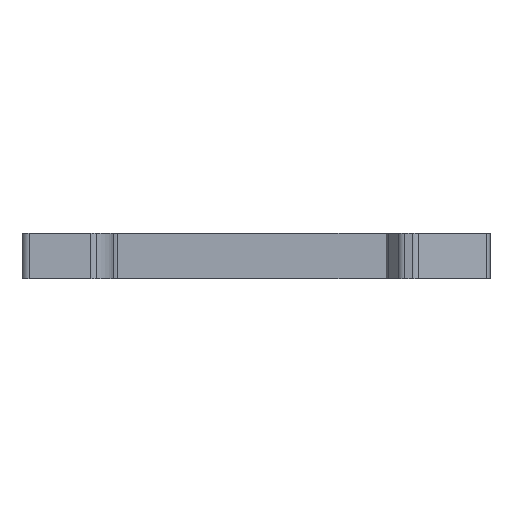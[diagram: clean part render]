
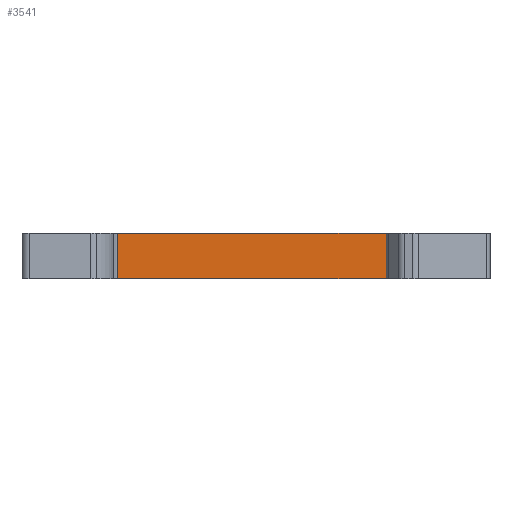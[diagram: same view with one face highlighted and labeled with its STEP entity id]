
A CAD part, front view. The second image highlights one B-rep face of the part: STEP entity #3541.
In plain terms, the highlighted planar face has unit normal (0, -1, 0).
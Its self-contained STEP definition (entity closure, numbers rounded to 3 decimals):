
#589 = DIRECTION ( 'NONE',  ( 0., 0., 1. ) ) ;
#1333 = CARTESIAN_POINT ( 'NONE',  ( -15.86, -33.5, -5.2 ) ) ;
#1361 = VERTEX_POINT ( 'NONE', #1333 ) ;
#1400 = VECTOR ( 'NONE', #5678, 1000. ) ;
#1977 = LINE ( 'NONE', #4140, #1400 ) ;
#2000 = EDGE_CURVE ( 'NONE', #5018, #6331, #1977, .T. ) ;
#2091 = CARTESIAN_POINT ( 'NONE',  ( 17.44, -33.5, 0. ) ) ;
#2437 = PLANE ( 'NONE',  #6048 ) ;
#2493 = CARTESIAN_POINT ( 'NONE',  ( 0., -33.5, -5.2 ) ) ;
#2689 = EDGE_LOOP ( 'NONE', ( #4362, #8325, #5142, #7004 ) ) ;
#3058 = EDGE_CURVE ( 'NONE', #1361, #6942, #9017, .T. ) ;
#3059 = DIRECTION ( 'NONE',  ( 0., 0., -1. ) ) ;
#3116 = EDGE_CURVE ( 'NONE', #6942, #6331, #7931, .T. ) ;
#3541 = ADVANCED_FACE ( 'NONE', ( #8257 ), #2437, .T. ) ;
#3657 = CARTESIAN_POINT ( 'NONE',  ( 17.44, -33.5, -5.2 ) ) ;
#4140 = CARTESIAN_POINT ( 'NONE',  ( 0., -33.5, 0. ) ) ;
#4308 = CARTESIAN_POINT ( 'NONE',  ( 17.44, -33.5, -5.2 ) ) ;
#4362 = ORIENTED_EDGE ( 'NONE', *, *, #3058, .T. ) ;
#4846 = CARTESIAN_POINT ( 'NONE',  ( -15.86, -33.5, 0. ) ) ;
#5018 = VERTEX_POINT ( 'NONE', #4846 ) ;
#5142 = ORIENTED_EDGE ( 'NONE', *, *, #2000, .F. ) ;
#5678 = DIRECTION ( 'NONE',  ( 1., 0., 0. ) ) ;
#5891 = DIRECTION ( 'NONE',  ( 0., -1., 0. ) ) ;
#6048 = AXIS2_PLACEMENT_3D ( 'NONE', #8824, #5891, #3059 ) ;
#6275 = DIRECTION ( 'NONE',  ( 1., 0., 0. ) ) ;
#6331 = VERTEX_POINT ( 'NONE', #2091 ) ;
#6687 = VECTOR ( 'NONE', #589, 1000. ) ;
#6942 = VERTEX_POINT ( 'NONE', #3657 ) ;
#7004 = ORIENTED_EDGE ( 'NONE', *, *, #7420, .F. ) ;
#7307 = CARTESIAN_POINT ( 'NONE',  ( -15.86, -33.5, -5.2 ) ) ;
#7420 = EDGE_CURVE ( 'NONE', #1361, #5018, #7839, .T. ) ;
#7839 = LINE ( 'NONE', #7307, #9153 ) ;
#7931 = LINE ( 'NONE', #4308, #6687 ) ;
#8257 = FACE_OUTER_BOUND ( 'NONE', #2689, .T. ) ;
#8325 = ORIENTED_EDGE ( 'NONE', *, *, #3116, .T. ) ;
#8342 = VECTOR ( 'NONE', #6275, 1000. ) ;
#8501 = DIRECTION ( 'NONE',  ( 0., 0., 1. ) ) ;
#8824 = CARTESIAN_POINT ( 'NONE',  ( 0., -33.5, -5.2 ) ) ;
#9017 = LINE ( 'NONE', #2493, #8342 ) ;
#9153 = VECTOR ( 'NONE', #8501, 1000. ) ;
